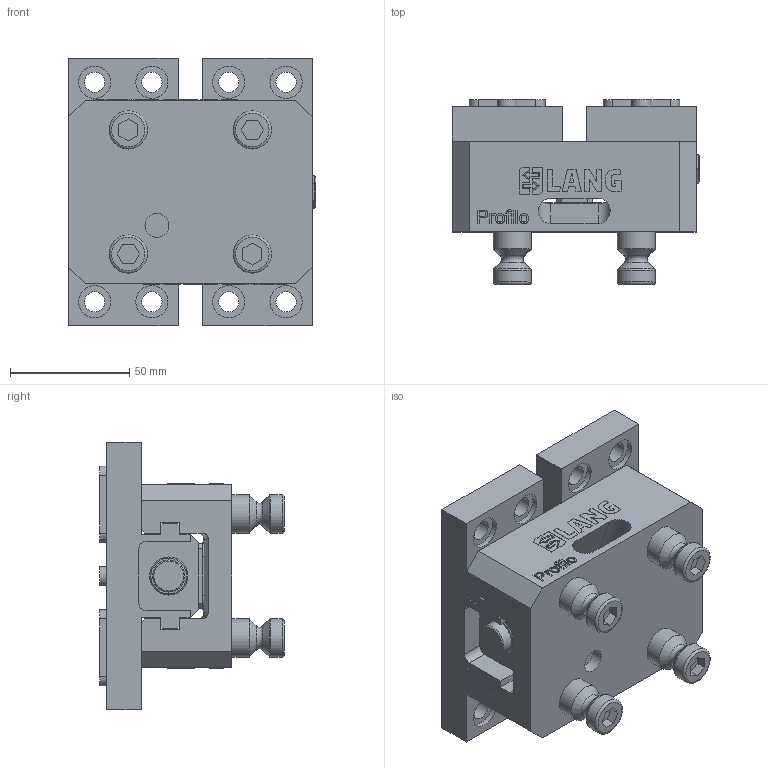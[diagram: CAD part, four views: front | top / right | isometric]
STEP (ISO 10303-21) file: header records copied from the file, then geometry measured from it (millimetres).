
FILE_DESCRIPTION (( 'STEP AP214' ), '1' );
FILE_NAME ('49010-77.STEP', '2020-03-13T14:06:26', ( '' ), ( '' ), 'SwSTEP 2.0', 'SolidWorks 2019', '' );
FILE_SCHEMA (( 'AUTOMOTIVE_DESIGN' ));
Length unit declared in the file: millimetre
Products named in the file (3): Profilo_49010-77; 49010-77; 49077
Assembly tree (3 placements, depth 2):
  49010-77
    Profilo_49010-77
    49077  x2
Bounding box: 103.61 x 77.5 x 112 mm (x, y, z)
Volume: 404528.2 mm3; surface area: 102169.4 mm2
Topology: 56 solids, 56 shells, 976 faces, 2440 edges, 1607 vertices
Faces by surface type: plane 727, bspline 136, cylinder 82, cone 19, torus 12
Full cylindrical faces by diameter (mm): 6.8 x4, 8.5 x8, 10 x1, 12 x8, 13.5 x9, 16 x12
Entity records: 40427 total; most frequent: CARTESIAN_POINT 9294, ORIENTED_EDGE 4390, DIRECTION 3568, EDGE_CURVE 2195, LINE 1770, VECTOR 1770, VERTEX_POINT 1485, EDGE_LOOP 1030
